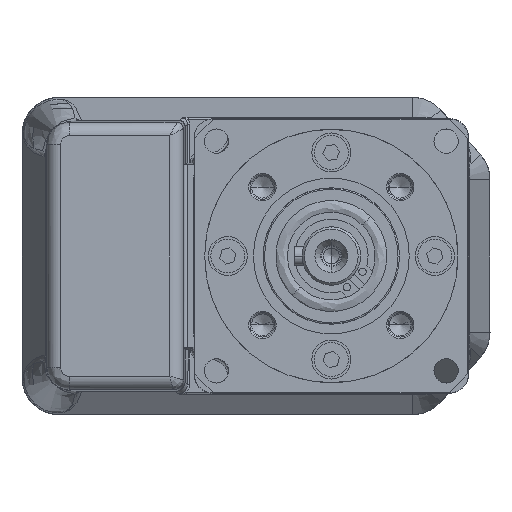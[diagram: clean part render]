
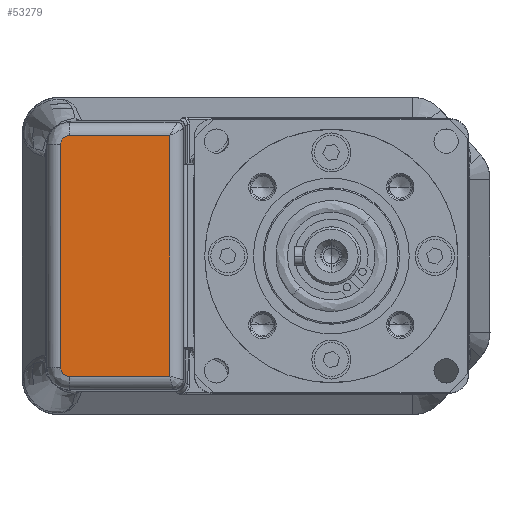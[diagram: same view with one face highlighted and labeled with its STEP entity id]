
A CAD part, left-side view. The second image highlights one B-rep face of the part: STEP entity #53279.
In plain terms, the highlighted planar face has unit normal (-1, 0, 0) as drawn and (0, 1, 0) by its records, which use the part's own axes.
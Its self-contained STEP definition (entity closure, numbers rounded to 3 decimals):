
#10483 = CARTESIAN_POINT ( 'NONE',  ( 23.836, 53.267, 55.312 ) ) ;
#12867 = CARTESIAN_POINT ( 'NONE',  ( -24.67, 53.267, 53.813 ) ) ;
#18445 = B_SPLINE_CURVE_WITH_KNOTS ( 'NONE', 3,
 ( #129228, #36526, #169245, #89923, #10483, #103111, #23786, #116486, #37090, #129798, #50436, #143112, #63762, #156481 ),
 .UNSPECIFIED., .F., .F.,
 ( 4, 2, 1, 1, 2, 2, 2, 4 ),
 ( 0., 0.25, 0.375, 0.437, 0.469, 0.5, 0.75, 1. ),
 .UNSPECIFIED. ) ;
#20724 = DIRECTION ( 'NONE',  ( 1., 0., 0. ) ) ;
#21796 = EDGE_CURVE ( 'NONE', #164048, #84034, #49747, .T. ) ;
#23486 = EDGE_CURVE ( 'NONE', #84034, #68704, #144203, .T. ) ;
#23786 = CARTESIAN_POINT ( 'NONE',  ( 24.066, 53.267, 55.139 ) ) ;
#25963 = CARTESIAN_POINT ( 'NONE',  ( 24.67, 53.267, 33.176 ) ) ;
#27763 = CARTESIAN_POINT ( 'NONE',  ( -24.67, 53.267, 33.176 ) ) ;
#28704 = EDGE_CURVE ( 'NONE', #113803, #169896, #167409, .T. ) ;
#29525 = CARTESIAN_POINT ( 'NONE',  ( 24.67, 53.267, 53.813 ) ) ;
#32077 = ORIENTED_EDGE ( 'NONE', *, *, #116080, .F. ) ;
#36526 = CARTESIAN_POINT ( 'NONE',  ( 23.124, 53.267, 55.582 ) ) ;
#37090 = CARTESIAN_POINT ( 'NONE',  ( 24.13, 53.267, 55.083 ) ) ;
#41297 = LINE ( 'NONE', #131773, #111784 ) ;
#42713 = DIRECTION ( 'NONE',  ( -1., 0., 0. ) ) ;
#48514 = AXIS2_PLACEMENT_3D ( 'NONE', #149413, #70045, #162806 ) ;
#49747 = LINE ( 'NONE', #168513, #120244 ) ;
#50436 = CARTESIAN_POINT ( 'NONE',  ( 24.456, 53.267, 54.707 ) ) ;
#52246 = CARTESIAN_POINT ( 'NONE',  ( -22.893, 53.267, 55.589 ) ) ;
#52465 = DIRECTION ( 'NONE',  ( 0., 0., 1. ) ) ;
#53279 = ADVANCED_FACE ( 'NONE', ( #123284 ), #96123, .F. ) ;
#55499 = CARTESIAN_POINT ( 'NONE',  ( 0., 53.267, 55.589 ) ) ;
#63762 = CARTESIAN_POINT ( 'NONE',  ( 24.673, 53.267, 54.053 ) ) ;
#68704 = VERTEX_POINT ( 'NONE', #25963 ) ;
#70045 = DIRECTION ( 'NONE',  ( 0., -1., 0. ) ) ;
#73747 = VECTOR ( 'NONE', #20724, 1000. ) ;
#75224 = DIRECTION ( 'NONE',  ( 0., 0., -1. ) ) ;
#77309 = ORIENTED_EDGE ( 'NONE', *, *, #164155, .F. ) ;
#78082 = ORIENTED_EDGE ( 'NONE', *, *, #111360, .T. ) ;
#78972 = CARTESIAN_POINT ( 'NONE',  ( -24.245, 53.267, 55.164 ) ) ;
#82908 = ORIENTED_EDGE ( 'NONE', *, *, #23486, .F. ) ;
#84034 = VERTEX_POINT ( 'NONE', #27763 ) ;
#85510 = ORIENTED_EDGE ( 'NONE', *, *, #21796, .F. ) ;
#86787 = CARTESIAN_POINT ( 'NONE',  ( 0., 53.267, 33.176 ) ) ;
#86790 = CARTESIAN_POINT ( 'NONE',  ( -24.67, 53.267, 53.813 ) ) ;
#89923 = CARTESIAN_POINT ( 'NONE',  ( 23.68, 53.267, 55.394 ) ) ;
#92289 = CARTESIAN_POINT ( 'NONE',  ( -24.673, 53.267, 54.062 ) ) ;
#96123 = PLANE ( 'NONE',  #48514 ) ;
#103111 = CARTESIAN_POINT ( 'NONE',  ( 23.999, 53.267, 55.194 ) ) ;
#111360 = EDGE_CURVE ( 'NONE', #113803, #116650, #18445, .T. ) ;
#111784 = VECTOR ( 'NONE', #52465, 1000. ) ;
#113803 = VERTEX_POINT ( 'NONE', #164990 ) ;
#116080 = EDGE_CURVE ( 'NONE', #169896, #164048, #141822, .T. ) ;
#116486 = CARTESIAN_POINT ( 'NONE',  ( 24.109, 53.267, 55.101 ) ) ;
#116650 = VERTEX_POINT ( 'NONE', #29525 ) ;
#120244 = VECTOR ( 'NONE', #75224, 1000. ) ;
#123284 = FACE_OUTER_BOUND ( 'NONE', #138159, .T. ) ;
#123971 = ORIENTED_EDGE ( 'NONE', *, *, #28704, .F. ) ;
#126530 = CARTESIAN_POINT ( 'NONE',  ( -22.893, 53.267, 55.589 ) ) ;
#129228 = CARTESIAN_POINT ( 'NONE',  ( 22.893, 53.267, 55.589 ) ) ;
#129798 = CARTESIAN_POINT ( 'NONE',  ( 24.326, 53.267, 54.896 ) ) ;
#131773 = CARTESIAN_POINT ( 'NONE',  ( 24.67, 53.267, 44.397 ) ) ;
#138159 = EDGE_LOOP ( 'NONE', ( #85510, #32077, #123971, #78082, #77309, #82908 ) ) ;
#141822 = B_SPLINE_CURVE_WITH_KNOTS ( 'NONE', 3,
 ( #52246, #158315, #78972, #171634, #92289, #12867 ),
 .UNSPECIFIED., .F., .F.,
 ( 4, 2, 4 ),
 ( 0., 0.732, 1. ),
 .UNSPECIFIED. ) ;
#143112 = CARTESIAN_POINT ( 'NONE',  ( 24.63, 53.267, 54.28 ) ) ;
#144203 = LINE ( 'NONE', #86787, #73747 ) ;
#149413 = CARTESIAN_POINT ( 'NONE',  ( 0., 53.267, 58.677 ) ) ;
#156481 = CARTESIAN_POINT ( 'NONE',  ( 24.67, 53.267, 53.813 ) ) ;
#158315 = CARTESIAN_POINT ( 'NONE',  ( -23.57, 53.267, 55.568 ) ) ;
#162806 = DIRECTION ( 'NONE',  ( 1., 0., 0. ) ) ;
#163289 = VECTOR ( 'NONE', #42713, 1000. ) ;
#164048 = VERTEX_POINT ( 'NONE', #86790 ) ;
#164155 = EDGE_CURVE ( 'NONE', #68704, #116650, #41297, .T. ) ;
#164990 = CARTESIAN_POINT ( 'NONE',  ( 22.893, 53.267, 55.589 ) ) ;
#167409 = LINE ( 'NONE', #55499, #163289 ) ;
#168513 = CARTESIAN_POINT ( 'NONE',  ( -24.67, 53.267, 58.677 ) ) ;
#169245 = CARTESIAN_POINT ( 'NONE',  ( 23.35, 53.267, 55.532 ) ) ;
#169896 = VERTEX_POINT ( 'NONE', #126530 ) ;
#171634 = CARTESIAN_POINT ( 'NONE',  ( -24.625, 53.267, 54.312 ) ) ;
